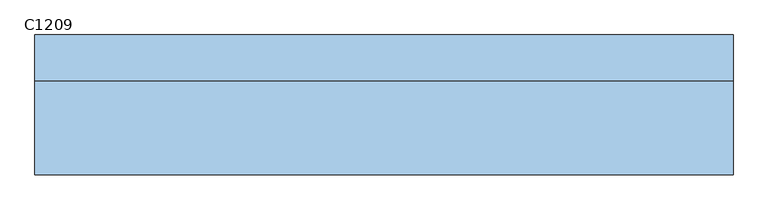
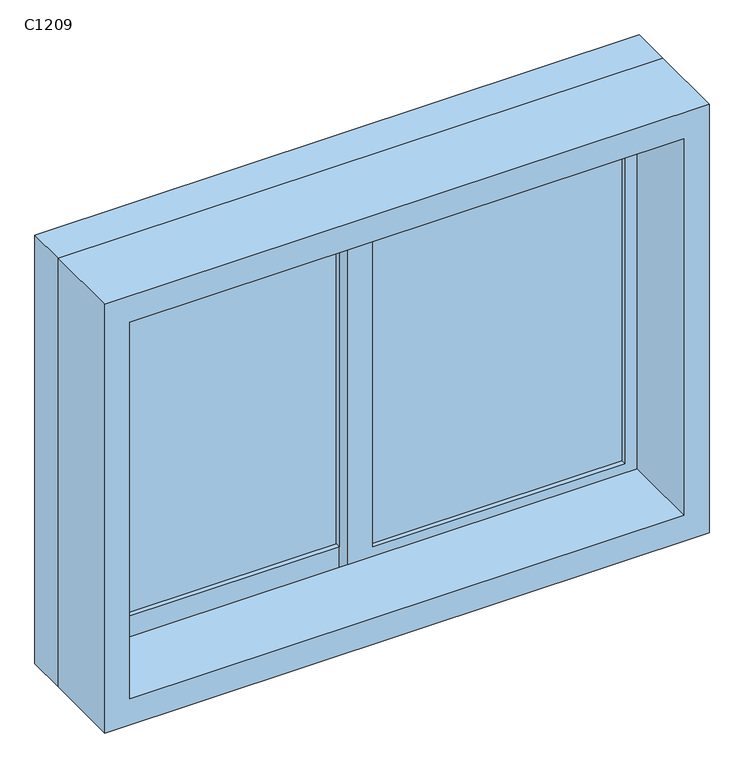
"""IFC4 building model written with IfcOpenShell, lengths in millimetres: window geometry, 推拉窗6 : C1209."""

import ifcopenshell
import ifcopenshell.guid

model = None  # the IFC model being written
_history = None  # IfcOwnerHistory: only IFC2X3 demands one
_inside = {}  # id of a spatial element -> (the spatial element, [elements in it])
_under = {}  # id of a project, library or spatial element -> (it, [spatial elements below it])
_declared = {}  # id of a project -> (the project, [libraries it declares])
_typed = {}  # id of a type object -> (the type object, [elements of that type])
_made_of = {}  # id of a material, layer set ... -> (it, [elements and type objects made of it])


def new_model(schema):
    """Start an empty IFC model of exactly this schema.

    Asked for "IFC4X3", IfcOpenShell would pick the latest addendum, in which some entities
    have other attributes; the version numbers below select the first issue.
    IFC2X3 requires an IfcOwnerHistory on every rooted entity: one is made here for all.
    """
    global model, _history
    if schema == "IFC4X3":
        model = ifcopenshell.file(schema_version=(4, 3, 0, 0))
    else:
        model = ifcopenshell.file(schema=schema)
    _inside.clear()
    _under.clear()
    _declared.clear()
    _typed.clear()
    _made_of.clear()
    _history = None
    if model.schema == "IFC2X3":
        org = make("IfcOrganization", Name="unknown")
        user = make(
            "IfcPersonAndOrganization",
            ThePerson=make("IfcPerson", FamilyName="unknown"),
            TheOrganization=org,
        )
        app = make(
            "IfcApplication",
            ApplicationDeveloper=org,
            Version="unknown",
            ApplicationFullName="unknown",
            ApplicationIdentifier="unknown",
        )
        _history = make(
            "IfcOwnerHistory",
            OwningUser=user,
            OwningApplication=app,
            ChangeAction="ADDED",
            CreationDate=0,
        )
    return model


def make(cls, **values):
    """One entity of the class cls with the attributes given. An attribute that is None is left unset."""
    return model.create_entity(
        cls, **{name: value for name, value in values.items() if value is not None}
    )


def rooted(cls, **values):
    """An entity with a GlobalId (a new one), such as an element, a storey or a relation."""
    return make(cls, GlobalId=ifcopenshell.guid.new(), OwnerHistory=_history, **values)


def si_unit(unit_type, name, prefix=None):
    """IfcSIUnit, for example si_unit("LENGTHUNIT", "METRE", prefix="MILLI")."""
    return make("IfcSIUnit", UnitType=unit_type, Prefix=prefix, Name=name)


def assignment(units):
    """IfcUnitAssignment: the units of a project."""
    return None if units is None else make("IfcUnitAssignment", Units=units)


def point(xyz):
    """IfcCartesianPoint."""
    return None if xyz is None else make("IfcCartesianPoint", Coordinates=xyz)


def direction(xyz):
    """IfcDirection."""
    return None if xyz is None else make("IfcDirection", DirectionRatios=xyz)


def frame(location, z_axis=None, x_axis=None):
    """IfcAxis2Placement3D, a coordinate frame: its origin and axes. An axis left out is left unset."""
    return make(
        "IfcAxis2Placement3D",
        Location=point(location),
        Axis=direction(z_axis),
        RefDirection=direction(x_axis),
    )


def origin():
    """The frame at (0, 0, 0) with its axes left unset."""
    return frame((0.0, 0.0, 0.0))


def place(relative_to, where):
    """IfcLocalPlacement: puts the frame where relative to a parent placement (None: the world)."""
    return make(
        "IfcLocalPlacement", PlacementRelTo=relative_to, RelativePlacement=where
    )


def context(
    kind, dimensions, precision=None, world=None, true_north=None, identifier=None
):
    """IfcGeometricRepresentationContext, for example the 3D "Model" context."""
    return make(
        "IfcGeometricRepresentationContext",
        ContextIdentifier=identifier,
        ContextType=kind,
        CoordinateSpaceDimension=dimensions,
        Precision=precision,
        WorldCoordinateSystem=world,
        TrueNorth=true_north,
    )


def project(units=None, contexts=None):
    """IfcProject with its units and contexts."""
    return rooted(
        "IfcProject",
        Name="project",
        RepresentationContexts=contexts,
        UnitsInContext=assignment(units),
    )


def spatial(cls, under=None, at=None, **own):
    """A site, building, storey or space (cls), placed at a placement, below another one or the project."""
    s = rooted(cls, ObjectPlacement=at, **own)
    if under is not None:
        _under.setdefault(under.id(), (under, []))[1].append(s)
    return s


def polyline(points):
    """IfcPolyline through the points."""
    return make("IfcPolyline", Points=[point(p) for p in points])


def outline(outer, holes=None, kind="AREA"):
    """IfcArbitraryClosedProfileDef: a profile drawn as a closed curve; with holes, ...WithVoids."""
    if holes is None:
        return make("IfcArbitraryClosedProfileDef", ProfileType=kind, OuterCurve=outer)
    return make(
        "IfcArbitraryProfileDefWithVoids",
        ProfileType=kind,
        OuterCurve=outer,
        InnerCurves=holes,
    )


def extrude(swept, where, along, depth):
    """IfcExtrudedAreaSolid: the profile swept, set in the frame where, extruded along a direction by depth."""
    return make(
        "IfcExtrudedAreaSolid",
        SweptArea=swept,
        Position=where,
        ExtrudedDirection=direction(along),
        Depth=depth,
    )


def shape(context_of_items, identifier, shape_type, items):
    """IfcShapeRepresentation: the items that make up one representation, for example the "Body"."""
    return make(
        "IfcShapeRepresentation",
        ContextOfItems=context_of_items,
        RepresentationIdentifier=identifier,
        RepresentationType=shape_type,
        Items=items,
    )


def source(mapping_origin, context_of_items, identifier, shape_type, items):
    """IfcRepresentationMap: a shape defined once, which mapped items show again and again."""
    return make(
        "IfcRepresentationMap",
        MappingOrigin=mapping_origin,
        MappedRepresentation=shape(context_of_items, identifier, shape_type, items),
    )


def transform(
    local_origin,
    x_axis=None,
    y_axis=None,
    z_axis=None,
    scale=None,
    scale2=None,
    scale3=None,
    uniform=True,
):
    """IfcCartesianTransformationOperator3D, or its non-uniform kind. x_axis, y_axis, z_axis: its Axis1, 2, 3."""
    if uniform:
        return make(
            "IfcCartesianTransformationOperator3D",
            Axis1=direction(x_axis),
            Axis2=direction(y_axis),
            LocalOrigin=point(local_origin),
            Scale=scale,
            Axis3=direction(z_axis),
        )
    return make(
        "IfcCartesianTransformationOperator3DnonUniform",
        Axis1=direction(x_axis),
        Axis2=direction(y_axis),
        LocalOrigin=point(local_origin),
        Scale=scale,
        Axis3=direction(z_axis),
        Scale2=scale2,
        Scale3=scale3,
    )


def mapped(mapping_source, mapping_target):
    """IfcMappedItem: shows the shape of a source again, moved by a transform."""
    return make(
        "IfcMappedItem", MappingSource=mapping_source, MappingTarget=mapping_target
    )


def made_of(thing, what):
    """Note that an element or type object is made of a material, layer set ...; save() writes the relation."""
    if what is not None:
        _made_of.setdefault(what.id(), (what, []))[1].append(thing)
    return thing


def element(
    cls,
    number,
    at=None,
    inside=None,
    cuts=None,
    type_object=None,
    material=None,
    context=None,
    identifier="Body",
    shape_type=None,
    held_by="IfcProductDefinitionShape",
    body=None,
    shapes=None,
    **own,
):
    """One element of the class cls, such as IfcWall. Its Tag is "e" and its number.

    at: its placement. inside: the storey or other place that contains it. cuts: it is an
    opening in that element (IfcRelVoidsElement). A single representation is given by context,
    identifier, shape_type and body (its items); several are given by shapes. held_by: the class
    of the entity that holds the representations. save() writes the other relations.
    """
    e = rooted(cls, Tag="e%d" % number, ObjectPlacement=at, **own)
    if body is not None:
        shapes = [shape(context, identifier, shape_type, body)]
    if shapes is not None:
        e.Representation = make(held_by, Representations=shapes)
    if inside is not None:
        _inside.setdefault(inside.id(), (inside, []))[1].append(e)
    if cuts is not None:
        rooted(
            "IfcRelVoidsElement", RelatingBuildingElement=cuts, RelatedOpeningElement=e
        )
    if type_object is not None:
        _typed.setdefault(type_object.id(), (type_object, []))[1].append(e)
    return made_of(e, material)


def aggregate(whole, parts):
    """IfcRelAggregates: a whole, such as a stair, and the parts it consists of."""
    return rooted("IfcRelAggregates", RelatingObject=whole, RelatedObjects=parts)


def save(model, path):
    """Write the relations noted so far, then the file.

    IfcRelAggregates (storeys below a building ...), IfcRelContainedInSpatialStructure (elements
    in a storey), IfcRelDefinesByType, IfcRelAssociatesMaterial and IfcRelDeclares: one each for
    every whole, place, type object, material and project.
    """
    for whole, parts in _under.values():
        aggregate(whole, parts)
    for where, things in _inside.values():
        rooted(
            "IfcRelContainedInSpatialStructure",
            RelatedElements=things,
            RelatingStructure=where,
        )
    for kind, things in _typed.values():
        rooted("IfcRelDefinesByType", RelatedObjects=things, RelatingType=kind)
    for what, things in _made_of.values():
        rooted("IfcRelAssociatesMaterial", RelatedObjects=things, RelatingMaterial=what)
    for by, libraries in _declared.values():
        rooted("IfcRelDeclares", RelatingContext=by, RelatedDefinitions=libraries)
    model.write(path)


def c1209_ef09aeb5(model_context):
    return source(origin(), model_context, "Body", "SweptSolid", [
        extrude(outline(polyline([(-515.475, 23.1265625), (-15.475, 23.1265625), (-15.475, 13.1265625), (-515.475, 13.1265625), (-515.475, 23.1265625)])), frame((0.0, 0.0, 2275.0), z_axis=(0.0, 0.0, 1.0), x_axis=(1.0, 0.0, 0.0)), (0.0, 0.0, 1.0), 750.0),
        extrude(outline(polyline([(34.525, -6.8734375), (534.525, -6.8734375), (534.525, -16.8734375), (34.525, -16.8734375), (34.525, -6.8734375)])), frame((0.0, 0.0, 2275.0), z_axis=(0.0, 0.0, 1.0), x_axis=(1.0, 0.0, 0.0)), (0.0, 0.0, 1.0), 750.0),
        extrude(outline(polyline([(3100.0, -590.475), (2200.0, -590.475), (2200.0, 609.525), (3100.0, 609.525), (3100.0, -590.475)]), holes=[polyline([(3045.0, 559.525), (2255.0, 559.525), (2255.0, -540.475), (3045.0, -540.475), (3045.0, 559.525)])]), frame((0.0, -186.8734375, 0.0), z_axis=(0.0, 1.0, 0.0), x_axis=(0.0, 0.0, 1.0)), (0.0, 0.0, 1.0), 160.0),
        extrude(outline(polyline([(2225.0, 34.525), (3075.0, 34.525), (3075.0, -565.475), (2225.0, -565.475), (2225.0, 34.525)]), holes=[polyline([(2275.0, -15.475), (2275.0, -515.475), (3025.0, -515.475), (3025.0, -15.475), (2275.0, -15.475)])]), frame((0.0, 3.1265625, 0.0), z_axis=(0.0, 1.0, 0.0), x_axis=(0.0, 0.0, 1.0)), (0.0, 0.0, 1.0), 30.0),
        extrude(outline(polyline([(3075.0, -15.475), (2225.0, -15.475), (2225.0, 584.525), (3075.0, 584.525), (3075.0, -15.475)]), holes=[polyline([(3025.0, 34.525), (3025.0, 534.525), (2275.0, 534.525), (2275.0, 34.525), (3025.0, 34.525)])]), frame((0.0, -26.8734375, 0.0), z_axis=(0.0, 1.0, 0.0), x_axis=(0.0, 0.0, 1.0)), (0.0, 0.0, 1.0), 30.0),
        extrude(outline(polyline([(3100.0, -590.475), (2200.0, -590.475), (2200.0, 609.525), (3100.0, 609.525), (3100.0, -590.475)]), holes=[polyline([(2225.0, -565.475), (3075.0, -565.475), (3075.0, 584.525), (2225.0, 584.525), (2225.0, -565.475)])]), frame((0.0, -26.8734375, 0.0), z_axis=(0.0, 1.0, 0.0), x_axis=(0.0, 0.0, 1.0)), (0.0, 0.0, 1.0), 80.0),
    ])


if __name__ == "__main__":
    model = new_model("IFC4")
    model_context = context("Model", 3, world=origin())
    ifc_project = project(units=[si_unit("LENGTHUNIT", "METRE", prefix="MILLI")], contexts=[model_context])
    site = spatial("IfcSite", under=ifc_project)
    building = spatial("IfcBuilding", under=site)
    placement = place(None, origin())
    c1209_shape = c1209_ef09aeb5(model_context)
    element("IfcWindow", 1, ObjectType="推拉窗6 : C1209", at=placement, inside=building, context=model_context, shape_type="MappedRepresentation", body=[
        mapped(c1209_shape, transform((0.0, 0.0, 0.0), x_axis=(1.0, 0.0, 0.0), y_axis=(0.0, 1.0, 0.0), z_axis=(0.0, 0.0, 1.0))),
    ])
    save(model, "model.ifc")
